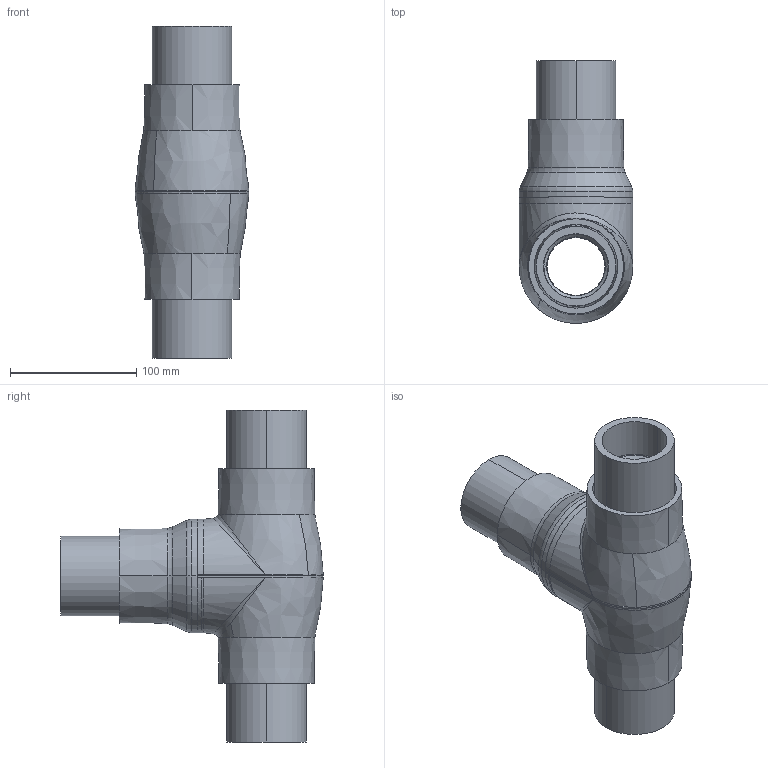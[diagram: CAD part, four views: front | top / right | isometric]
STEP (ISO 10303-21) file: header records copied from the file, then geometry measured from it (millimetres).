
FILE_DESCRIPTION (( 'STEP AP203' ), '1' );
FILE_NAME ('KP_8-75-63SCEC02.step', '2011-08-08T11:38:29', ( '' ), ( '' ), 'SwSTEP 2.0', 'SolidWorks 2011', '' );
FILE_SCHEMA (( 'CONFIG_CONTROL_DESIGN' ));
Length unit declared in the file: millimetre
Products named in the file (1): KP_8-75-63SCEC02
Bounding box: 90 x 207.99 x 263 mm (x, y, z)
Volume: 828720.1 mm3; surface area: 271899.8 mm2
Topology: 6 solids, 9 shells, 183 faces, 442 edges, 262 vertices
Faces by surface type: torus 67, plane 33, cylinder 31, cone 26, bspline 26
Entity records: 13725 total; most frequent: CARTESIAN_POINT 9548, ORIENTED_EDGE 872, DIRECTION 848, EDGE_CURVE 436, AXIS2_PLACEMENT_3D 370, VERTEX_POINT 262, CIRCLE 212, EDGE_LOOP 196
